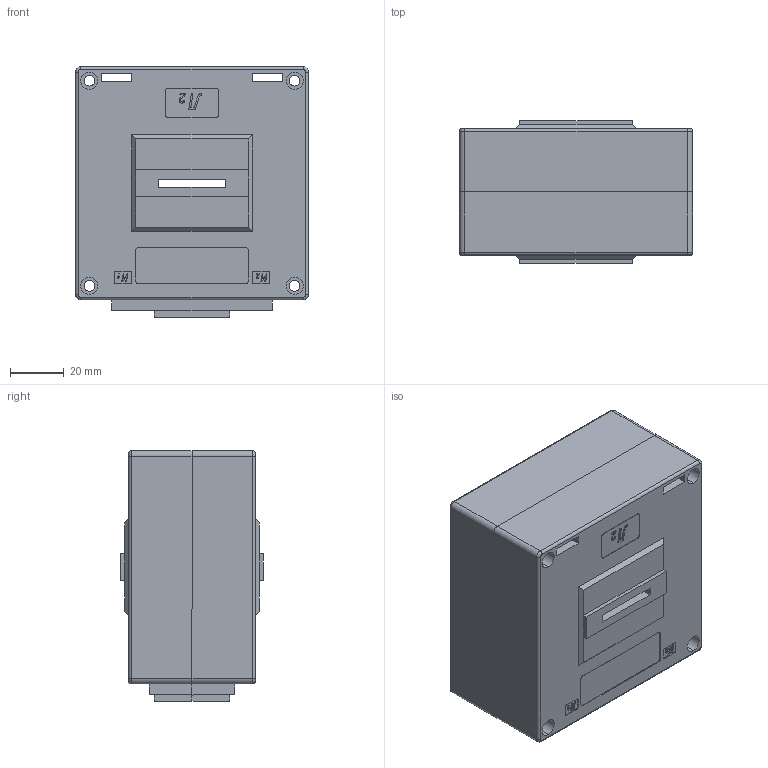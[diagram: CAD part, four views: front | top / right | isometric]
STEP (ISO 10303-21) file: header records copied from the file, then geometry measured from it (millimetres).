
FILE_DESCRIPTION (( 'STEP AP214' ), '1' );
FILE_NAME ('DW-A.STEP', '2015-06-13T07:15:54', ( 'User' ), ( 'Microsoft' ), 'SwSTEP 2.0', 'SolidWorks 2012', '' );
FILE_SCHEMA (( 'AUTOMOTIVE_DESIGN' ));
Length unit declared in the file: millimetre
Products named in the file (3): DW-A; DW-As
Assembly tree (2 placements, depth 2):
  DW-A
    DW-As
    DW-A
Bounding box: 87 x 53.2 x 93.5 mm (x, y, z)
Volume: 71056.7 mm3; surface area: 71475.7 mm2
Topology: 2 solids, 2 shells, 597 faces, 1635 edges, 1082 vertices
Faces by surface type: plane 363, cylinder 120, bspline 106, torus 8
Entity records: 23567 total; most frequent: CARTESIAN_POINT 8761, ORIENTED_EDGE 3270, DIRECTION 2647, EDGE_CURVE 1635, LINE 1175, VECTOR 1175, VERTEX_POINT 1082, AXIS2_PLACEMENT_3D 736
